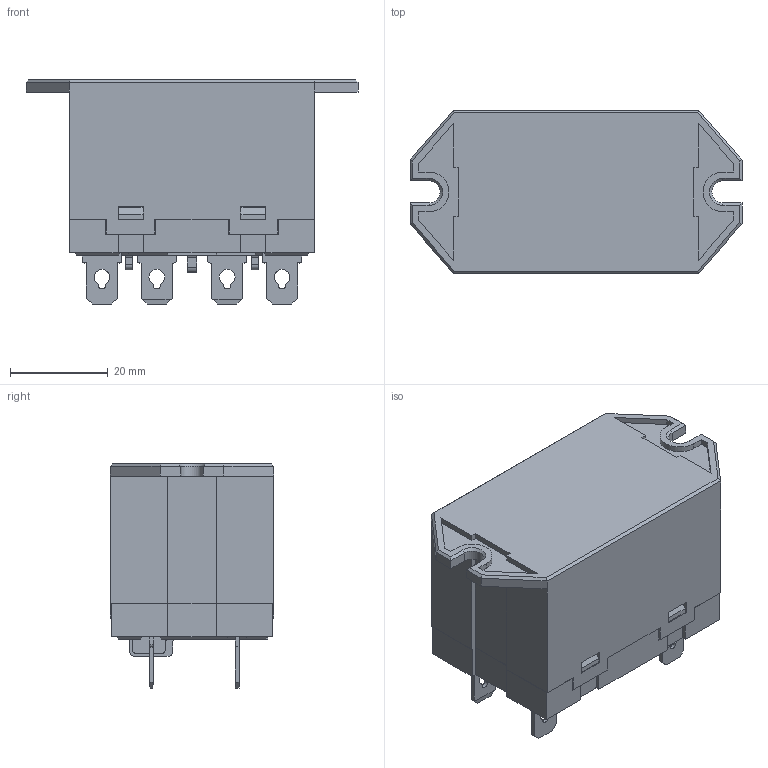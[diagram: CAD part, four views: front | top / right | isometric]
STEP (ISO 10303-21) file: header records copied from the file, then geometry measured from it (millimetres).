
FILE_DESCRIPTION (( 'STEP AP203' ), '1' );
FILE_NAME ('76F 二组2A插入式顶耳外壳OU 外形.STEP', '2022-12-26T00:53:26', ( '' ), ( '' ), 'SwSTEP 2.0', 'SolidWorks 2018', '' );
FILE_SCHEMA (( 'CONFIG_CONTROL_DESIGN' ));
Length unit declared in the file: millimetre
Products named in the file (1): 76F  二组2A插入式顶耳外壳OU 外形
Bounding box: 67.8 x 33.4 x 45.8 mm (x, y, z)
Volume: 59663.5 mm3; surface area: 11811.9 mm2
Topology: 1 solids, 7 shells, 438 faces, 1186 edges, 783 vertices
Faces by surface type: plane 358, cylinder 78, cone 2
Entity records: 13693 total; most frequent: CARTESIAN_POINT 2408, ORIENTED_EDGE 2372, DIRECTION 2222, EDGE_CURVE 1186, LINE 1028, VECTOR 1028, VERTEX_POINT 783, AXIS2_PLACEMENT_3D 597
